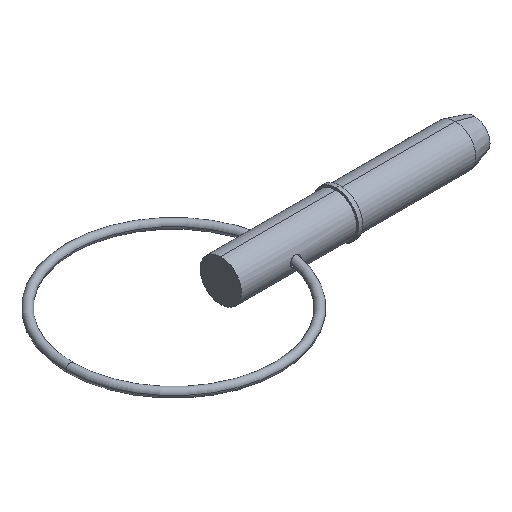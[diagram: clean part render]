
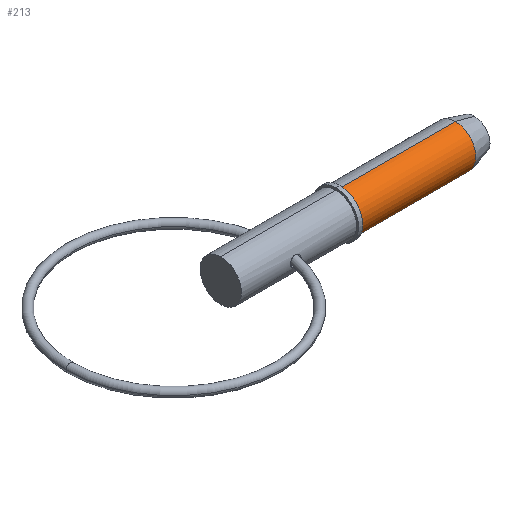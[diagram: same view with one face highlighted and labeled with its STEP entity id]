
A CAD part, isometric view. The second image highlights one B-rep face of the part: STEP entity #213.
In plain terms, the highlighted cylindrical face has radius 3.175 mm (diameter 6.35 mm), a partial arc.
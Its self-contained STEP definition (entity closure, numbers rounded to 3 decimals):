
#17 = EDGE_CURVE ( 'NONE', #363, #270, #67, .T. ) ;
#30 = ORIENTED_EDGE ( 'NONE', *, *, #265, .T. ) ;
#67 = CIRCLE ( 'NONE', #318, 3.175 ) ;
#85 = EDGE_LOOP ( 'NONE', ( #403, #616, #30, #591 ) ) ;
#111 = DIRECTION ( 'NONE',  ( 1., 0., 0. ) ) ;
#112 = VERTEX_POINT ( 'NONE', #553 ) ;
#134 = DIRECTION ( 'NONE',  ( 1., 0., 0. ) ) ;
#177 = DIRECTION ( 'NONE',  ( 0., 0., -1. ) ) ;
#181 = DIRECTION ( 'NONE',  ( 0., 0., -1. ) ) ;
#195 = CARTESIAN_POINT ( 'NONE',  ( 18.29, 0., 0. ) ) ;
#207 = AXIS2_PLACEMENT_3D ( 'NONE', #252, #111, #726 ) ;
#213 = ADVANCED_FACE ( 'NONE', ( #243 ), #646, .T. ) ;
#224 = VERTEX_POINT ( 'NONE', #719 ) ;
#225 = AXIS2_PLACEMENT_3D ( 'NONE', #874, #547, #177 ) ;
#243 = FACE_OUTER_BOUND ( 'NONE', #85, .T. ) ;
#252 = CARTESIAN_POINT ( 'NONE',  ( 35.948, 0., 0. ) ) ;
#262 = CARTESIAN_POINT ( 'NONE',  ( 0., 0., -3.175 ) ) ;
#265 = EDGE_CURVE ( 'NONE', #270, #224, #340, .T. ) ;
#270 = VERTEX_POINT ( 'NONE', #488 ) ;
#318 = AXIS2_PLACEMENT_3D ( 'NONE', #195, #560, #181 ) ;
#320 = CIRCLE ( 'NONE', #207, 3.175 ) ;
#340 = LINE ( 'NONE', #262, #609 ) ;
#363 = VERTEX_POINT ( 'NONE', #958 ) ;
#403 = ORIENTED_EDGE ( 'NONE', *, *, #929, .F. ) ;
#488 = CARTESIAN_POINT ( 'NONE',  ( 18.29, 0., -3.175 ) ) ;
#547 = DIRECTION ( 'NONE',  ( 1., 0., 0. ) ) ;
#553 = CARTESIAN_POINT ( 'NONE',  ( 35.948, 0., 3.175 ) ) ;
#560 = DIRECTION ( 'NONE',  ( 1., 0., 0. ) ) ;
#591 = ORIENTED_EDGE ( 'NONE', *, *, #671, .F. ) ;
#609 = VECTOR ( 'NONE', #788, 1000. ) ;
#616 = ORIENTED_EDGE ( 'NONE', *, *, #17, .T. ) ;
#646 = CYLINDRICAL_SURFACE ( 'NONE', #225, 3.175 ) ;
#658 = VECTOR ( 'NONE', #134, 1000. ) ;
#671 = EDGE_CURVE ( 'NONE', #112, #224, #320, .T. ) ;
#672 = CARTESIAN_POINT ( 'NONE',  ( 0., 0., 3.175 ) ) ;
#719 = CARTESIAN_POINT ( 'NONE',  ( 35.948, 0., -3.175 ) ) ;
#726 = DIRECTION ( 'NONE',  ( 0., 0., -1. ) ) ;
#788 = DIRECTION ( 'NONE',  ( 1., 0., 0. ) ) ;
#874 = CARTESIAN_POINT ( 'NONE',  ( 0., 0., 0. ) ) ;
#929 = EDGE_CURVE ( 'NONE', #363, #112, #966, .T. ) ;
#958 = CARTESIAN_POINT ( 'NONE',  ( 18.29, 0., 3.175 ) ) ;
#966 = LINE ( 'NONE', #672, #658 ) ;
